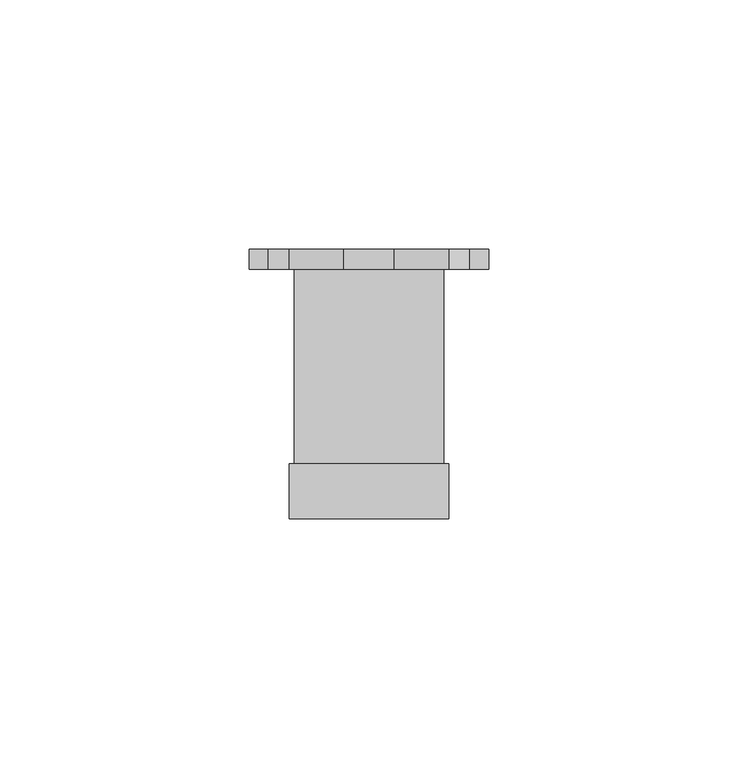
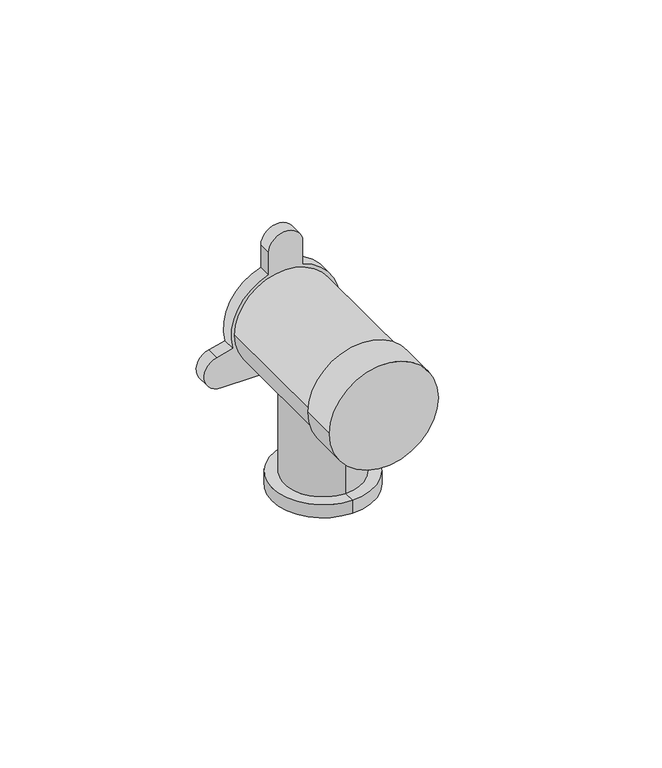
"""IFC4 building model written with IfcOpenShell, lengths in millimetres: pipe fitting geometry, KAN-therm Push podejście mosiężne z uszami do baterii : KAN-therm Push podejście mosiężne z uszami do baterii."""

from ifc_helpers import new_model, si_unit, point, frame, frame_2d, origin, origin_2d, place, context, project, spatial, polyline, circle_curve, trimmed, segment, composite_curve, outline, extrude, source, transform, mapped, element, save
from ifc_brep_helpers import plane_surface, cylinder_surface, advanced_brep


def pipe_fitting_ec76dbcf(model_context):
    return source(origin(), model_context, "Body", "SolidModel", [
        advanced_brep(
        [(0.0, 0.0, 0.0), (0.0, 11.5, 0.0), (0.0, -11.5, 0.0), (0.0, -15.0, -40.0), (0.0, 15.0, -40.0), (0.0, 0.0, -40.0), (0.0, -15.0, -36.0), (0.0, 15.0, -36.0), (0.0, -11.5, -36.0), (0.0, 11.5, -36.0)],
        [
            (0, 1),
            (1, 2, circle_curve(frame((0.0, 0.0, 0.0), z_axis=(0.0, 0.0, 1.0), x_axis=(0.0, 1.0, 0.0)), 11.5)),
            (2, 0),
            (2, 1, circle_curve(frame((0.0, 0.0, 0.0), z_axis=(0.0, 0.0, 1.0), x_axis=(0.0, 1.0, 0.0)), 11.5)),
            (3, 4, circle_curve(frame((0.0, 0.0, -40.0), z_axis=(0.0, 0.0, -1.0), x_axis=(0.0, 1.0, 0.0)), 15.0)),
            (4, 5),
            (5, 3),
            (4, 3, circle_curve(frame((0.0, 0.0, -40.0), z_axis=(0.0, 0.0, -1.0), x_axis=(0.0, 1.0, 0.0)), 15.0)),
            (6, 7, circle_curve(frame((0.0, 0.0, -36.0), z_axis=(0.0, 0.0, -1.0), x_axis=(0.0, 1.0, 0.0)), 15.0)),
            (7, 4),
            (3, 6),
            (7, 6, circle_curve(frame((0.0, 0.0, -36.0), z_axis=(0.0, 0.0, -1.0), x_axis=(0.0, 1.0, 0.0)), 15.0)),
            (8, 9, circle_curve(frame((0.0, 0.0, -36.0), z_axis=(0.0, 0.0, -1.0), x_axis=(0.0, 1.0, 0.0)), 11.5)),
            (9, 7),
            (6, 8),
            (9, 8, circle_curve(frame((0.0, 0.0, -36.0), z_axis=(0.0, 0.0, -1.0), x_axis=(0.0, 1.0, 0.0)), 11.5)),
            (1, 9),
            (8, 2),
        ],
        [
            plane_surface(frame((0.0, 0.0, 0.0), z_axis=(0.0, 0.0, 1.0), x_axis=(0.0, 1.0, 0.0))),
            plane_surface(frame((0.0, 0.0, -40.0), z_axis=(0.0, 0.0, -1.0), x_axis=(0.0, 1.0, 0.0))),
            cylinder_surface(frame((0.0, 0.0, 2741.4742198), z_axis=(0.0, 0.0, 1.0), x_axis=(0.0, 1.0, 0.0)), 15.0),
            plane_surface(frame((0.0, 0.0, -36.0), z_axis=(0.0, 0.0, 1.0), x_axis=(0.0, 1.0, 0.0))),
            cylinder_surface(frame((0.0, 0.0, 2741.4742198), z_axis=(0.0, 0.0, 1.0), x_axis=(0.0, 1.0, 0.0)), 11.5),
        ],
        [
            (0, [[1, 2, 3]]),
            (0, [[-3, 4, -1]]),
            (1, [[5, 6, 7]]),
            (1, [[8, -7, -6]]),
            (2, [[9, 10, -5, 11]]),
            (2, [[12, -11, -8, -10]]),
            (3, [[13, 14, -9, 15]]),
            (3, [[16, -15, -12, -14]]),
            (4, [[-2, 17, -13, 18]]),
            (4, [[-4, -18, -16, -17]]),
        ],
    ),
        extrude(outline(composite_curve([segment(trimmed(circle_curve(origin_2d(), 16.0), [point((0.0, -16.0))], [point((0.0, 16.0))], False, "CARTESIAN"), True, "CONTINUOUS"), segment(trimmed(circle_curve(origin_2d(), 16.0), [point((0.0, 16.0))], [point((0.0, -16.0))], False, "CARTESIAN"), True, "CONTINUOUS")], self_intersect=False)), frame((0.0, -31.0, 0.0), z_axis=(0.0, 1.0, 0.0), x_axis=(0.0, 0.0, 1.0)), (0.0, 0.0, 1.0), 11.0),
        extrude(outline(composite_curve([segment(trimmed(circle_curve(origin_2d(), 15.0), [point((0.0, -15.0))], [point((0.0, 15.0))], False, "CARTESIAN"), True, "CONTINUOUS"), segment(trimmed(circle_curve(origin_2d(), 15.0), [point((0.0, 15.0))], [point((0.0, -15.0))], False, "CARTESIAN"), True, "CONTINUOUS")], self_intersect=False)), frame((0.0, -20.0, 0.0), z_axis=(0.0, 1.0, 0.0), x_axis=(0.0, 0.0, 1.0)), (0.0, 0.0, 1.0), 39.0),
        extrude(outline(composite_curve([segment(polyline([(22.0, -5.0), (15.1986842, -5.0)]), True, "CONTINUOUS"), segment(trimmed(circle_curve(origin_2d(), 16.0), [point((15.1986842, -5.0))], [point((-3.9498874, -15.504786))], False, "CARTESIAN"), True, "CONTINUOUS"), segment(polyline([(-3.9498874, -15.504786), (-5.1547544, -20.2343398)]), True, "CONTINUOUS"), segment(trimmed(circle_curve(frame_2d((-10.0, -19.0)), 5.0), [point((-5.1547544, -20.2343398))], [point((-15.0, -19.0))], False, "CARTESIAN"), True, "CONTINUOUS"), segment(polyline([(-15.0, -19.0), (-15.0, 19.0)]), True, "CONTINUOUS"), segment(trimmed(circle_curve(frame_2d((-10.0, 19.0)), 5.0), [point((-15.0, 19.0))], [point((-5.1547544, 20.2343398))], False, "CARTESIAN"), True, "CONTINUOUS"), segment(polyline([(-5.1547544, 20.2343398), (-3.9498874, 15.504786)]), True, "CONTINUOUS"), segment(trimmed(circle_curve(origin_2d(), 16.0), [point((-3.9498874, 15.504786))], [point((15.1986842, 5.0))], False, "CARTESIAN"), True, "CONTINUOUS"), segment(polyline([(15.1986842, 5.0), (22.0, 5.0)]), True, "CONTINUOUS"), segment(trimmed(circle_curve(frame_2d((22.0, 0.0)), 5.0), [point((22.0, 5.0))], [point((22.0, -5.0))], False, "CARTESIAN"), True, "CONTINUOUS")], self_intersect=False)), frame((0.0, 19.0, 0.0), z_axis=(0.0, 1.0, 0.0), x_axis=(0.0, 0.0, 1.0)), (0.0, 0.0, 1.0), 4.0),
    ])


if __name__ == "__main__":
    model = new_model("IFC4")
    model_context = context("Model", 3, world=origin())
    ifc_project = project(units=[si_unit("LENGTHUNIT", "METRE", prefix="MILLI")], contexts=[model_context])
    site = spatial("IfcSite", under=ifc_project)
    building = spatial("IfcBuilding", under=site)
    placement = place(None, origin())
    pipe_fitting_shape = pipe_fitting_ec76dbcf(model_context)
    element("IfcPipeFitting", 1, ObjectType="KAN-therm Push podejście mosiężne z uszami do baterii : KAN-therm Push podejście mosiężne z uszami do baterii", at=placement, inside=building, context=model_context, shape_type="MappedRepresentation", body=[
        mapped(pipe_fitting_shape, transform((0.0, 0.0, 0.0), x_axis=(1.0, 0.0, 0.0), y_axis=(0.0, 1.0, 0.0), z_axis=(0.0, 0.0, 1.0))),
    ])
    save(model, "model.ifc")
